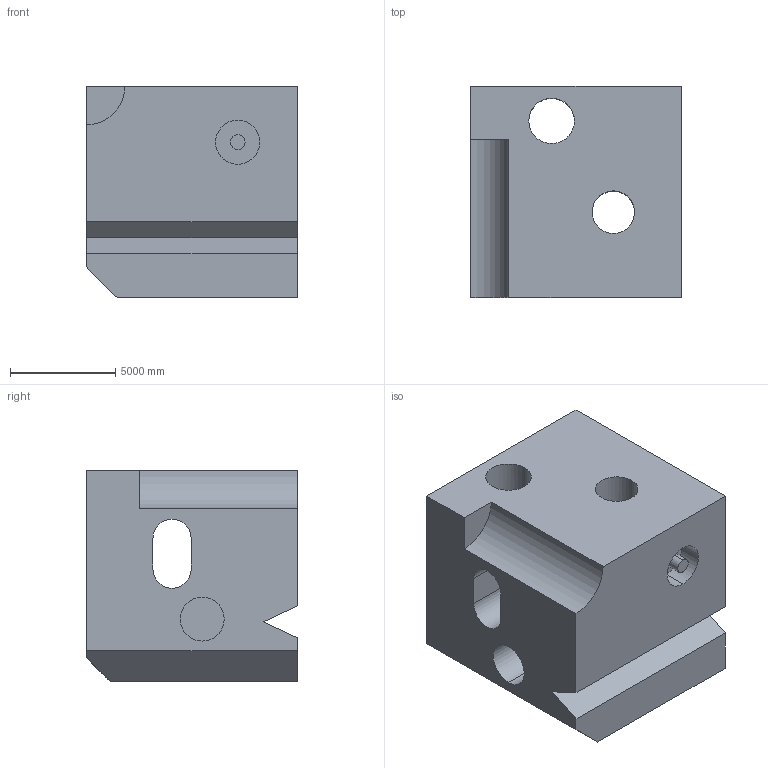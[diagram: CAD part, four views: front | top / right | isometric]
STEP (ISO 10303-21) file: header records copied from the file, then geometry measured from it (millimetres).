
FILE_DESCRIPTION (( 'STEP AP203' ), '1' );
FILE_NAME ('1909.STEP', '2022-08-23T09:21:29', ( 'user' ), ( '' ), 'SwSTEP 2.0', 'SolidWorks 2021', '' );
FILE_SCHEMA (( 'CONFIG_CONTROL_DESIGN' ));
Length unit declared in the file: centimetre
Products named in the file (1): 1909
Bounding box: 10000 x 10000 x 10000 mm (x, y, z)
Volume: 798187971558.2 mm3; surface area: 854251164.3 mm2
Topology: 1 solids, 1 shells, 39 faces, 111 edges, 74 vertices
Faces by surface type: plane 25, cylinder 14
Entity records: 1517 total; most frequent: CARTESIAN_POINT 396, ORIENTED_EDGE 222, DIRECTION 211, EDGE_CURVE 111, VERTEX_POINT 74, LINE 73, VECTOR 73, AXIS2_PLACEMENT_3D 69
